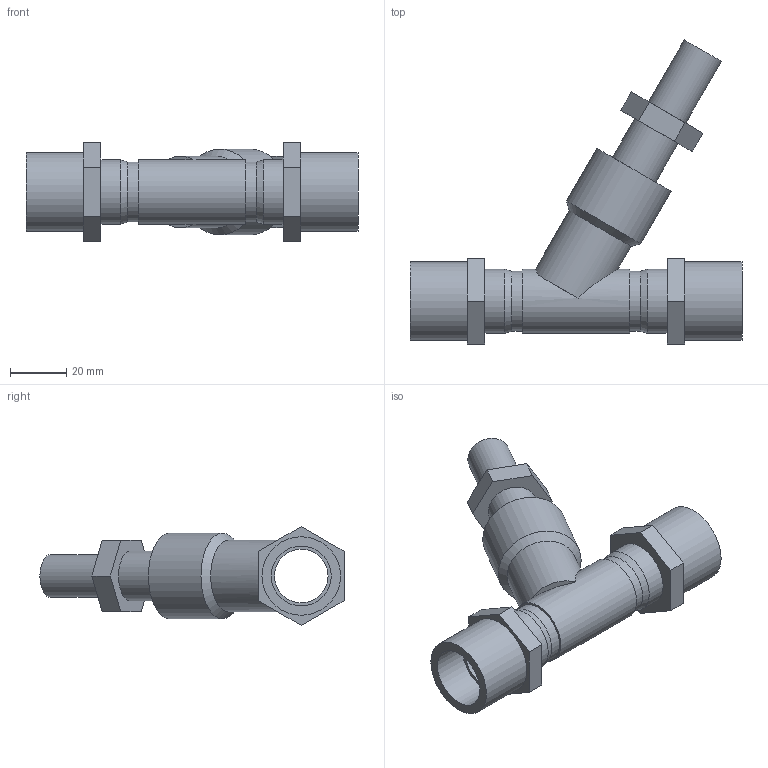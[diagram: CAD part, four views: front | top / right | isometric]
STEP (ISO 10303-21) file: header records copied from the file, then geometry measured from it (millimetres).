
FILE_DESCRIPTION(/* description */ ('VIC DIFFERENTIAL PRESSURE RELIEF VALVE SERIES 782 (CUP)','CAx-IF Rec.Pracs.---Representation and Presentation of Product Manufacturing Information (PMI)---4.0---2014-10-13'),/* implementation_level */ '2;1');
FILE_NAME(/* name */ 'C:\Users\kkamble\Desktop\New folder (12)\New folder\step\Victaulic_IPS_Valve Differential Pressure Relief_TA Series 782 (CUP)\Victaulic_IPS_Valve Differential Pressure Relief_TA Series 782 (CUP)_0.5 (15).stp',/* time_stamp */ '2020-10-13T18:45:17+05:00',/* author */ ('kkamble'),/* organization */ ('Victaulic'),/* preprocessor_version */ 'ST-DEVELOPER v17.2',/* originating_system */ 'Autodesk Inventor 2019',/* authorisation */ '');
FILE_SCHEMA (('AP242_MANAGED_MODEL_BASED_3D_ENGINEERING_MIM_LF { 1 0 10303 442 1 1 4 }'));
Length unit declared in the file: inch
Products named in the file (1): 782-0.5
Bounding box: 118.11 x 108.2 x 35.2 mm (x, y, z)
Volume: 65504.1 mm3; surface area: 26317.2 mm2
Topology: 1 solids, 1 shells, 51 faces, 126 edges, 89 vertices
Faces by surface type: plane 34, cylinder 14, cone 3
Full cylindrical faces by diameter (mm): 15.24 x1, 17.78 x1, 19.05 x1, 21.336 x4, 22.86 x3, 25.4 x1, 27.94 x2, 30.48 x1
Entity records: 1780 total; most frequent: CARTESIAN_POINT 331, DIRECTION 305, ORIENTED_EDGE 252, EDGE_CURVE 126, AXIS2_PLACEMENT_3D 117, VERTEX_POINT 89, LINE 71, VECTOR 71
